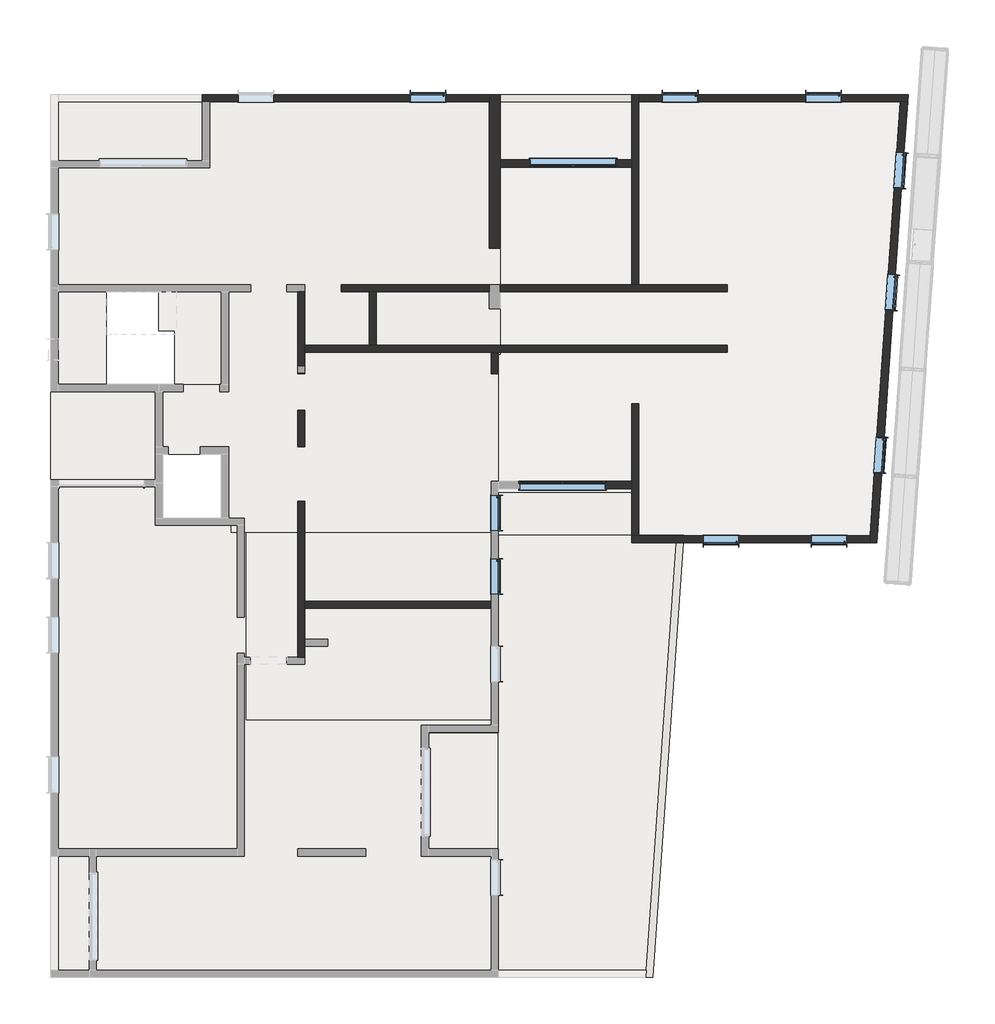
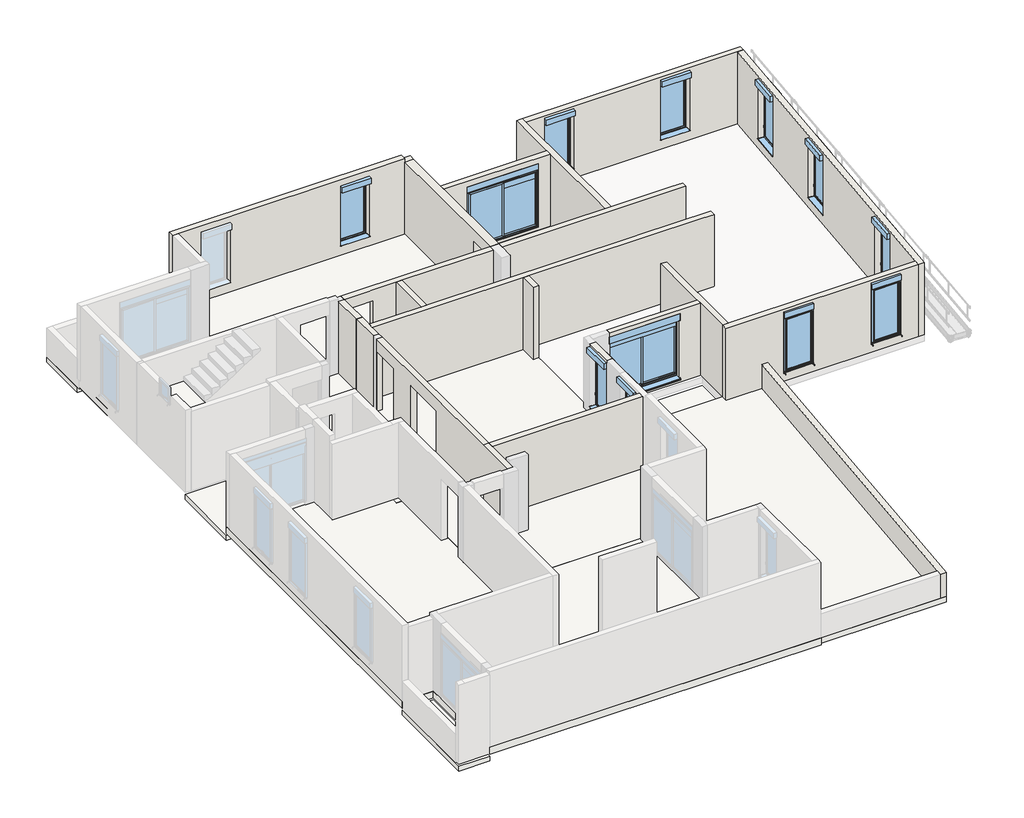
# One storey, part 2 of 3: 20 walls, 12 windows, 11 slabs.
"""IFC4 building model written with IfcOpenShell, lengths in millimetres."""

from ifc_helpers import new_model, si_unit, frame, origin, place, context, project, spatial, polyline, outline, extrude, faceted_brep, transform, mapped, element, save
from components import window_b85a0a24, window_200x100_8459d8a5, window_200x100_a15cc3b6

model = new_model("IFC4")

# Units and contexts
model_context = context("Model", 3, world=origin())
ifc_project = project(units=[si_unit("LENGTHUNIT", "METRE", prefix="MILLI")], contexts=[model_context])

# Site, building, storey
site = spatial("IfcSite", under=ifc_project)
building = spatial("IfcBuilding", under=site)
storey = spatial("IfcBuildingStorey", under=building, Name="03-Plateau 3", Elevation=4400.0)

# Slabs
placement = place(None, origin())
element("IfcSlab", 1, ObjectType="Plancher Coulé en place 25 cm", at=placement, inside=storey, context=model_context, shape_type="Brep", body=[
    faceted_brep([(6482.9552204, 18999.8622276, 3760.0), (6482.9552204, 16439.8622276, 3760.0), (6482.9552204, 15439.8622276, 3760.0), (6482.9552204, 11729.8622276, 3760.0), (6432.9552204, 11729.8622276, 3760.0), (6432.9552204, 6729.8622276, 3760.0), (6432.9552204, 6659.8622276, 3760.0), (6332.9552204, 6659.8622276, 3760.0), (6232.9552204, 6659.8622276, 3760.0), (6232.9552204, 6729.8622276, 3760.0), (-642.0447796, 6729.8622276, 3760.0), (-1072.0447796, 6729.8622276, 3760.0), (-1072.0447796, 6929.8622276, 3760.0), (-1072.0447796, 7129.8622276, 3760.0), (-1327.0447796, 7129.8622276, 3760.0), (-1327.0447796, 8929.8622276, 3760.0), (-2977.0447796, 8929.8622276, 3760.0), (-2977.0447796, 9129.8622276, 3760.0), (-2977.0447796, 10879.8622276, 3760.0), (-1377.0447796, 10879.8622276, 3760.0), (-1327.0447796, 10879.8622276, 3760.0), (-1327.0447796, 13479.8622276, 3760.0), (-6107.0447796, 13479.8622276, 3760.0), (-6107.0447796, 17149.8622276, 3760.0), (-5907.0447796, 17149.8622276, 3760.0), (-1857.0447796, 17149.8622276, 3760.0), (-1857.0447796, 18999.8622276, 3760.0), (-1757.0447796, 18999.8622276, 3760.0), (6482.9552204, 18999.8622276, 4010.0), (-1857.0447796, 18999.8622276, 4010.0), (-1857.0447796, 17149.8622276, 4010.0), (-2297.0447796, 17149.8622276, 4010.0), (-6107.0447796, 17149.8622276, 4010.0), (-6107.0447796, 13479.8622276, 4010.0), (-1327.0447796, 13479.8622276, 4010.0), (-1327.0447796, 10879.8622276, 4010.0), (-1377.0447796, 10879.8622276, 4010.0), (-2977.0447796, 10879.8622276, 4010.0), (-2977.0447796, 9129.8622276, 4010.0), (-2977.0447796, 8929.8622276, 4010.0), (-2817.0447796, 8929.8622276, 4010.0), (-1327.0447796, 8929.8622276, 4010.0), (-1327.0447796, 7129.8622276, 4010.0), (-1072.0447796, 7129.8622276, 4010.0), (-1072.0447796, 6729.8622276, 4010.0), (6232.9552204, 6729.8622276, 4010.0), (6232.9552204, 6659.8622276, 4010.0), (6432.9552204, 6659.8622276, 4010.0), (6432.9552204, 6729.8622276, 4010.0), (6432.9552204, 11729.8622276, 4010.0), (6482.9552204, 11729.8622276, 4010.0), (6482.9552204, 12999.8622276, 4010.0), (6482.9552204, 13679.8622276, 4010.0), (6482.9552204, 15439.8622276, 4010.0), (6482.9552204, 16439.8622276, 4010.0), (6232.9552204, 6659.8622276, 3810.0)], [[[0, 1, 2, 3, 4, 5, 6, 7, 8, 9, 10, 11, 12, 13, 14, 15, 16, 17, 18, 19, 20, 21, 22, 23, 24, 25, 26, 27]], [[28, 29, 30, 31, 32, 33, 34, 35, 36, 37, 38, 39, 40, 41, 42, 43, 44, 45, 46, 47, 48, 49, 50, 51, 52, 53, 54]], [[1, 0, 28, 54]], [[2, 1, 54, 53]], [[3, 2, 53, 52, 51, 50]], [[4, 3, 50, 49]], [[5, 4, 49, 48]], [[11, 10, 9, 45, 44]], [[15, 14, 42, 41]], [[16, 15, 41, 40, 39]], [[17, 16, 39, 38]], [[18, 17, 38, 37]], [[20, 19, 18, 37, 36, 35]], [[21, 20, 35, 34]], [[22, 21, 34, 33]], [[23, 22, 33, 32]], [[25, 24, 23, 32, 31, 30]], [[26, 25, 30, 29]], [[0, 27, 26, 29, 28]], [[13, 12, 11, 44, 43]], [[14, 13, 43, 42]], [[6, 5, 48, 47]], [[8, 7, 6, 47, 46, 55]], [[9, 8, 55, 46, 45]]]),
])
element("IfcSlab", 2, ObjectType="Plancher Coulé en place 25 cm", at=placement, inside=storey, context=model_context, shape_type="Brep", body=[
    faceted_brep([(-6107.0447796, -2340.1377724, 3760.0), (-6107.0447796, 8209.8622276, 3760.0), (-2977.0447796, 8209.8622276, 3760.0), (-2977.0447796, 7129.8622276, 3760.0), (-1072.0447796, 7129.8622276, 3760.0), (-1072.0447796, 6729.8622276, 3760.0), (-642.0447796, 6729.8622276, 3760.0), (-642.0447796, 5305.2622276, 3760.0), (-642.0447796, 3375.2622276, 3760.0), (-642.0447796, 1469.8622276, 3760.0), (4452.9552204, 1469.8622276, 3760.0), (6232.9552204, 1469.8622276, 3760.0), (6432.9552204, 1469.8622276, 3760.0), (6432.9552204, 1259.8622276, 3760.0), (6432.9552204, 1119.8622276, 3760.0), (4452.9552204, 1119.8622276, 3760.0), (4452.9552204, -2150.1377724, 3760.0), (6232.9552204, -2150.1377724, 3760.0), (6432.9552204, -2150.1377724, 3760.0), (6432.9552204, -5742.5306807, 3760.0), (-4937.0447796, -5742.5306807, 3760.0), (-5037.0447796, -5742.5306807, 3760.0), (-5037.0447796, -2340.1377724, 3760.0), (-6107.0447796, -2340.1377724, 4010.0), (-5037.0447796, -2340.1377724, 4010.0), (-5037.0447796, -2820.1377724, 4010.0), (-5037.0447796, -5240.1377724, 4010.0), (-5037.0447796, -5540.1377724, 4010.0), (-5037.0447796, -5742.5306807, 4010.0), (6432.9552204, -5742.5306807, 4010.0), (6432.9552204, -2440.1377724, 4010.0), (6432.9552204, -2150.1377724, 4010.0), (4452.9552204, -2150.1377724, 4010.0), (4452.9552204, 1119.8622276, 4010.0), (6432.9552204, 1119.8622276, 4010.0), (6432.9552204, 1469.8622276, 4010.0), (4452.9552204, 1469.8622276, 4010.0), (-642.0447796, 1469.8622276, 4010.0), (-642.0447796, 6729.8622276, 4010.0), (-1072.0447796, 6729.8622276, 4010.0), (-1072.0447796, 7129.8622276, 4010.0), (-2977.0447796, 7129.8622276, 4010.0), (-2977.0447796, 8209.8622276, 4010.0), (-3177.0447796, 8209.8622276, 4010.0), (-3487.0447796, 8209.8622276, 4010.0), (-5907.0447796, 8209.8622276, 4010.0), (-6107.0447796, 8209.8622276, 4010.0), (-6107.0447796, 8109.8622276, 4010.0), (6432.9552204, 1469.8622276, 3810.0)], [[[0, 1, 2, 3, 4, 5, 6, 7, 8, 9, 10, 11, 12, 13, 14, 15, 16, 17, 18, 19, 20, 21, 22]], [[23, 24, 25, 26, 27, 28, 29, 30, 31, 32, 33, 34, 35, 36, 37, 38, 39, 40, 41, 42, 43, 44, 45, 46, 47]], [[1, 0, 23, 47, 46]], [[2, 1, 46, 45, 44, 43, 42]], [[3, 2, 42, 41]], [[4, 3, 41, 40]], [[5, 4, 40, 39]], [[6, 5, 39, 38]], [[9, 8, 7, 6, 38, 37]], [[10, 9, 37, 36]], [[16, 15, 33, 32]], [[18, 17, 16, 32, 31]], [[19, 18, 31, 30, 29]], [[21, 20, 19, 29, 28]], [[22, 21, 28, 27, 26, 25, 24]], [[0, 22, 24, 23]], [[12, 11, 10, 36, 35, 48]], [[14, 13, 12, 48, 35, 34]], [[15, 14, 34, 33]]]),
])
element("IfcSlab", 3, ObjectType="Plancher Coulé en place 45 cm", at=placement, inside=storey, context=model_context, shape_type="Brep", body=[
    faceted_brep([(6232.9552204, 6559.8622276, 3560.0), (6232.9552204, 6329.8622276, 3560.0), (6232.9552204, 1819.8622276, 3560.0), (6232.9552204, 1469.8622276, 3560.0), (4767.8295439, 1469.8622276, 3560.0), (4452.9552204, 1469.8622276, 3560.0), (-642.0447796, 1469.8622276, 3560.0), (-642.0447796, 1819.8622276, 3560.0), (-642.0447796, 6329.8622276, 3560.0), (-642.0447796, 6729.8622276, 3560.0), (6232.9552204, 6729.8622276, 3560.0), (6232.9552204, 6559.8622276, 4010.0), (6232.9552204, 6729.8622276, 4010.0), (-642.0447796, 6729.8622276, 4010.0), (-642.0447796, 1469.8622276, 4010.0), (4452.9552204, 1469.8622276, 4010.0), (6232.9552204, 1469.8622276, 4010.0), (6232.9552204, 1469.8622276, 3810.0), (6232.9552204, 1469.8622276, 3760.0), (6232.9552204, 1469.8622276, 3690.0), (-642.0447796, 1469.8622276, 3760.0), (-642.0447796, 6729.8622276, 3760.0), (6232.9552204, 6729.8622276, 3760.0)], [[[0, 1, 2, 3, 4, 5, 6, 7, 8, 9, 10]], [[11, 12, 13, 14, 15, 16]], [[3, 2, 1, 0, 11, 16, 17, 18, 19]], [[6, 5, 15, 14, 20]], [[9, 8, 7, 6, 20, 14, 13, 21]], [[10, 9, 21, 13, 12, 22]], [[0, 10, 22, 12, 11]], [[5, 4, 3, 19, 18, 17, 16, 15]]]),
])
element("IfcSlab", 4, ObjectType="Plancher Coulé en place 18 cm", at=placement, inside=storey, context=model_context, shape_type="Brep", body=[
    faceted_brep([(-1857.0447796, 18999.8622276, 3510.0), (-1857.0447796, 18799.8622276, 3510.0), (-1857.0447796, 17149.8622276, 3510.0), (-6107.0447796, 17149.8622276, 3510.0), (-6107.0447796, 18559.8622276, 3510.0), (-6107.0447796, 18999.8622276, 3510.0), (-5907.0447796, 18999.8622276, 3510.0), (-1857.0447796, 18999.8622276, 3690.0), (-5907.0447796, 18999.8622276, 3690.0), (-6107.0447796, 18999.8622276, 3690.0), (-6107.0447796, 17149.8622276, 3690.0), (-1857.0447796, 17149.8622276, 3690.0)], [[[0, 1, 2, 3, 4, 5, 6]], [[7, 8, 9, 10, 11]], [[2, 1, 0, 7, 11]], [[3, 2, 11, 10]], [[5, 4, 3, 10, 9]], [[6, 5, 9, 8]], [[0, 6, 8, 7]]]),
])
element("IfcSlab", 5, ObjectType="Plancher Coulé en place 18 cm", at=placement, inside=storey, context=model_context, shape_type="SweptSolid", body=[
    extrude(outline(polyline([(-5907.0447796, -2340.1377724), (-5037.0447796, -2340.1377724), (-5037.0447796, -5740.1377724), (-6107.0447796, -5740.1377724), (-6107.0447796, -2340.1377724), (-5907.0447796, -2340.1377724)])), frame((0.0, 0.0, 3510.0), z_axis=(0.0, 0.0, 1.0), x_axis=(1.0, 0.0, 0.0)), (0.0, 0.0, 1.0), 180.0),
])
element("IfcSlab", 6, ObjectType="Plancher Coulé en place 18 cm", at=placement, inside=storey, context=model_context, shape_type="Brep", body=[
    faceted_brep([(4767.8295439, 1469.8622276, 3510.0), (6232.9552204, 1469.8622276, 3510.0), (6432.9552204, 1469.8622276, 3510.0), (6432.9552204, 1259.8622276, 3510.0), (6432.9552204, -2150.1377724, 3510.0), (4452.9552204, -2150.1377724, 3510.0), (4452.9552204, 1119.8622276, 3510.0), (4452.9552204, 1469.8622276, 3510.0), (4767.8295439, 1469.8622276, 3690.0), (4452.9552204, 1469.8622276, 3690.0), (4452.9552204, 1119.8622276, 3690.0), (4452.9552204, -2150.1377724, 3690.0), (6432.9552204, -2150.1377724, 3690.0), (6432.9552204, 1119.8622276, 3690.0), (6432.9552204, 1259.8622276, 3690.0), (6432.9552204, 1469.8622276, 3690.0), (6232.9552204, 1469.8622276, 3690.0), (4452.9552204, 1469.8622276, 3560.0)], [[[0, 1, 2, 3, 4, 5, 6, 7]], [[8, 9, 10, 11, 12, 13, 14, 15, 16]], [[4, 3, 2, 15, 14, 13, 12]], [[5, 4, 12, 11]], [[7, 6, 5, 11, 10, 9, 17]], [[0, 7, 17, 9, 8]], [[2, 1, 0, 8, 16, 15]]]),
])
element("IfcSlab", 7, ObjectType="Plancher Coulé en place 18 cm", at=placement, inside=storey, context=model_context, shape_type="Brep", body=[
    faceted_brep([(-2977.0447796, 10679.8622276, 3510.0), (-2977.0447796, 9129.8622276, 3510.0), (-2977.0447796, 8929.8622276, 3510.0), (-2977.0447796, 8209.8622276, 3510.0), (-6107.0447796, 8209.8622276, 3510.0), (-6107.0447796, 10679.8622276, 3510.0), (-5907.0447796, 10679.8622276, 3510.0), (-2977.0447796, 10679.8622276, 3690.0), (-5907.0447796, 10679.8622276, 3690.0), (-6107.0447796, 10679.8622276, 3690.0), (-6107.0447796, 8209.8622276, 3690.0), (-5907.0447796, 8209.8622276, 3690.0), (-2977.0447796, 8209.8622276, 3690.0)], [[[0, 1, 2, 3, 4, 5, 6]], [[7, 8, 9, 10, 11, 12]], [[3, 2, 1, 0, 7, 12]], [[4, 3, 12, 11, 10]], [[5, 4, 10, 9]], [[6, 5, 9, 8]], [[0, 6, 8, 7]]]),
])
element("IfcSlab", 8, ObjectType="Plancher Coulé en place 20 cm", at=placement, inside=storey, context=model_context, shape_type="Brep", body=[
    faceted_brep([(10766.9267033, -5740.1377724, 3810.0), (6432.9552204, -5740.1377724, 3810.0), (6432.9552204, 1469.8622276, 3810.0), (6232.9552204, 1469.8622276, 3810.0), (6232.9552204, 2069.8622276, 3810.0), (6232.9552204, 4489.8622276, 3810.0), (6232.9552204, 5039.8622276, 3810.0), (6232.9552204, 6329.8622276, 3810.0), (6232.9552204, 6559.8622276, 3810.0), (6232.9552204, 6659.8622276, 3810.0), (6332.9552204, 6659.8622276, 3810.0), (11434.634224, 6659.8622276, 3810.0), (11634.0191714, 6659.8622276, 3810.0), (11626.5387054, 6552.8865803, 3810.0), (10766.9267033, -5740.1377724, 4010.0), (11634.0191714, 6659.8622276, 4010.0), (6232.9552204, 6659.8622276, 4010.0), (6232.9552204, 1469.8622276, 4010.0), (6432.9552204, 1469.8622276, 4010.0), (6432.9552204, -5740.1377724, 4010.0)], [[[0, 1, 2, 3, 4, 5, 6, 7, 8, 9, 10, 11, 12, 13]], [[14, 15, 16, 17, 18, 19]], [[1, 0, 14, 19]], [[2, 1, 19, 18]], [[3, 2, 18, 17]], [[9, 8, 7, 6, 5, 4, 3, 17, 16]], [[12, 11, 10, 9, 16, 15]], [[0, 13, 12, 15, 14]]]),
])
element("IfcSlab", 9, ObjectType="Plancher Coulé en place 18 cm", at=placement, inside=storey, context=model_context, shape_type="SweptSolid", body=[
    extrude(outline(polyline([(10172.9552204, 7859.8622276), (10172.9552204, 6659.8622276), (6432.9552204, 6659.8622276), (6432.9552204, 7859.8622276), (6632.9552204, 7859.8622276), (10172.9552204, 7859.8622276)])), frame((0.0, 0.0, 3510.0), z_axis=(0.0, 0.0, 1.0), x_axis=(1.0, 0.0, 0.0)), (0.0, 0.0, 1.0), 180.0),
])
element("IfcSlab", 10, ObjectType="Plancher Coulé en place 20 cm", at=placement, inside=storey, context=model_context, shape_type="SweptSolid", body=[
    extrude(outline(polyline([(-1327.0447796, 10879.8622276), (-2628.7510491, 10879.8622276), (-2628.7510491, 12379.8622276), (-3088.7510491, 12379.8622276), (-3088.7510491, 13479.8622276), (-2628.7510491, 13479.8622276), (-1327.0447796, 13479.8622276), (-1327.0447796, 10879.8622276)])), frame((0.0, 0.0, 3950.0), z_axis=(0.0, 0.0, 1.0), x_axis=(1.0, 0.0, 0.0)), (0.0, 0.0, 1.0), 200.0),
])
element("IfcSlab", 11, ObjectType="Plancher Coulé en place 18 cm", at=placement, inside=storey, context=model_context, shape_type="SweptSolid", body=[
    extrude(outline(polyline([(-5907.0447796, 10879.8622276), (-5907.0447796, 13479.8622276), (-4550.4151884, 13479.8622276), (-4550.4151884, 10879.8622276), (-5907.0447796, 10879.8622276)])), frame((0.0, 0.0, 5420.0), z_axis=(0.0, 0.0, 1.0), x_axis=(1.0, 0.0, 0.0)), (0.0, 0.0, 1.0), 180.0),
])

# Walls
element("IfcWall", 12, ObjectType="Voile Banché 30 cm", at=placement, inside=storey, context=model_context, shape_type="Brep", body=[
    faceted_brep([(6182.9552204, 13680.5057943, 6650.0), (6182.9552204, 17174.8622276, 6650.0), (6182.9552204, 18799.8622276, 6650.0), (6182.9552204, 18999.8622276, 6650.0), (6182.9552204, 18999.8622276, 4010.0), (6182.9552204, 18799.8622276, 4010.0), (6182.9552204, 14700.5057943, 4010.0), (6182.9552204, 14700.5057943, 6250.0), (6182.9552204, 13680.5057943, 6250.0), (6482.9552204, 18999.8622276, 4010.0), (6482.9552204, 18999.8622276, 4750.0), (6482.9552204, 18999.8622276, 6590.0), (6482.9552204, 18999.8622276, 6650.0), (6482.9552204, 18799.8622276, 6650.0), (6482.9552204, 17174.8622276, 6650.0), (6482.9552204, 16974.8622276, 6650.0), (6482.9552204, 13680.5057943, 6650.0), (6482.9552204, 13680.5057943, 6250.0), (6482.9552204, 14700.5057943, 6250.0), (6482.9552204, 14700.5057943, 4010.0), (6482.9552204, 16974.8622276, 4010.0), (6482.9552204, 17174.8622276, 4010.0)], [[[0, 1, 2, 3, 4, 5, 6, 7, 8]], [[9, 10, 11, 12, 13, 14, 15, 16, 17, 18, 19, 20, 21]], [[4, 9, 21, 20, 19, 6, 5]], [[16, 0, 8, 17]], [[3, 12, 11, 10, 9, 4]], [[7, 18, 17, 8]], [[18, 7, 6, 19]], [[3, 2, 13, 12]], [[2, 1, 0, 16, 15, 14, 13]]]),
])
element("IfcWall", 13, ObjectType="Voile Banché 20 cm", at=placement, inside=storey, context=model_context, shape_type="Brep", body=[
    faceted_brep([(6482.9552204, 16974.8622276, 4010.0), (10172.9552204, 16974.8622276, 4010.0), (10172.9552204, 16974.8622276, 6650.0), (6482.9552204, 16974.8622276, 6650.0), (9762.9552204, 16974.8622276, 6450.0), (9762.9552204, 16974.8622276, 6230.0), (9762.9552204, 16974.8622276, 4150.0), (9762.9552204, 16974.8622276, 4120.0), (7302.9552204, 16974.8622276, 4120.0), (7302.9552204, 16974.8622276, 4150.0), (7302.9552204, 16974.8622276, 6230.0), (7302.9552204, 16974.8622276, 6450.0), (10172.9552204, 17174.8622276, 4010.0), (6482.9552204, 17174.8622276, 4010.0), (6482.9552204, 17174.8622276, 6650.0), (10172.9552204, 17174.8622276, 6650.0), (9762.9552204, 17174.8622276, 6200.0), (9762.9552204, 17174.8622276, 6450.0), (7302.9552204, 17174.8622276, 6450.0), (7302.9552204, 17174.8622276, 6200.0), (7332.9552204, 17174.8622276, 6200.0), (7332.9552204, 17174.8622276, 4105.0695702), (7302.9552204, 17174.8622276, 4105.0695702), (7302.9552204, 17174.8622276, 4050.0), (9762.9552204, 17174.8622276, 4050.0), (9762.9552204, 17174.8622276, 4105.0695702), (9732.9552204, 17174.8622276, 4105.0695702), (9732.9552204, 17174.8622276, 6200.0), (9742.9552204, 17024.8622276, 6210.0), (9742.9552204, 17024.8622276, 4150.0), (9762.9552204, 17024.8622276, 4150.0), (9762.9552204, 17024.8622276, 6210.0), (7322.9552204, 17024.8622276, 4150.0), (7322.9552204, 17024.8622276, 6210.0), (7302.9552204, 17024.8622276, 6210.0), (7302.9552204, 17024.8622276, 4150.0), (9762.9552204, 17034.8622276, 4150.0), (9762.9552204, 17034.8622276, 4119.2643667), (9762.9552204, 17044.8622276, 4050.0), (9762.9552204, 17034.8622276, 6200.0), (9762.9552204, 17034.8622276, 6210.0), (7302.9552204, 17034.8622276, 6210.0), (7302.9552204, 17034.8622276, 6200.0), (7302.9552204, 17044.8622276, 4050.0), (7302.9552204, 17034.8622276, 4119.2643667), (7302.9552204, 17034.8622276, 4150.0), (9732.9552204, 17034.8622276, 4050.0), (7332.9552204, 17034.8622276, 4050.0), (7332.9552204, 17034.8622276, 4060.0), (9732.9552204, 17034.8622276, 4060.0), (7332.9552204, 17044.8622276, 4050.0), (7332.9552204, 17034.8622276, 6200.0), (7332.9552204, 17034.8622276, 4119.2643667), (9732.9552204, 17044.8622276, 4050.0), (9732.9552204, 17034.8622276, 4119.2643667), (9732.9552204, 17034.8622276, 6200.0), (9742.9552204, 17034.8622276, 4150.0), (9742.9552204, 17034.8622276, 6200.0), (7322.9552204, 17034.8622276, 6200.0), (7322.9552204, 17034.8622276, 4150.0), (7322.9552204, 17034.8622276, 6210.0), (9742.9552204, 17034.8622276, 6210.0)], [[[0, 1, 2, 3], [4, 5, 6, 7, 8, 9, 10, 11]], [[12, 13, 14, 15], [16, 17, 18, 19, 20, 21, 22, 23, 24, 25, 26, 27]], [[1, 0, 13, 12]], [[2, 1, 12, 15]], [[0, 3, 14, 13]], [[3, 2, 15, 14]], [[28, 29, 30, 31]], [[32, 33, 34, 35]], [[31, 30, 36, 37, 25, 24, 38, 7, 6, 5, 4, 17, 16, 39, 40]], [[35, 34, 41, 42, 19, 18, 11, 10, 9, 8, 43, 23, 22, 44, 45]], [[46, 47, 48, 49]], [[48, 47, 50]], [[20, 51, 52, 21]], [[47, 46, 53, 38, 24, 23, 43, 50]], [[46, 49, 53]], [[54, 55, 27, 26]], [[37, 36, 56, 57, 55, 54]], [[45, 44, 52, 51, 58, 59]], [[33, 32, 59, 58, 60]], [[29, 28, 61, 57, 56]], [[7, 38, 53, 49, 48, 50, 43, 8]], [[37, 54, 26, 25]], [[52, 44, 22, 21]], [[32, 35, 45, 59]], [[30, 29, 56, 36]], [[17, 4, 11, 18]], [[34, 33, 60, 41]], [[28, 31, 40, 61]], [[40, 39, 57, 61]], [[42, 41, 60, 58]], [[19, 42, 58, 51, 20]], [[39, 16, 27, 55, 57]]]),
])
element("IfcWall", 14, ObjectType="Voile Banché 20 cm", at=placement, inside=storey, context=model_context, shape_type="Brep", body=[
    faceted_brep([(10372.9552204, 18799.8622276, 4010.0), (17705.3277835, 18799.8622276, 4010.0), (17905.8161631, 18799.8622276, 4010.0), (17905.8161631, 18799.8622276, 6650.0), (17705.3277835, 18799.8622276, 6650.0), (10372.9552204, 18799.8622276, 6650.0), (16049.3137407, 18799.8622276, 6550.0), (16049.3137407, 18799.8622276, 4350.0), (15049.3137407, 18799.8622276, 4350.0), (15049.3137407, 18799.8622276, 6550.0), (12032.9552204, 18799.8622276, 6550.0), (12032.9552204, 18799.8622276, 4350.0), (11032.9552204, 18799.8622276, 4350.0), (11032.9552204, 18799.8622276, 6550.0), (17919.8015255, 18999.8622276, 4010.0), (10372.9552204, 18999.8622276, 4010.0), (10372.9552204, 18999.8622276, 6650.0), (17919.8015255, 18999.8622276, 6650.0), (16049.3137407, 18999.8622276, 4350.0), (16049.3137407, 18999.8622276, 6550.0), (15049.3137407, 18999.8622276, 6550.0), (15049.3137407, 18999.8622276, 4350.0), (12032.9552204, 18999.8622276, 4350.0), (12032.9552204, 18999.8622276, 6550.0), (11032.9552204, 18999.8622276, 6550.0), (11032.9552204, 18999.8622276, 4350.0)], [[[0, 1, 2, 3, 4, 5], [6, 7, 8, 9], [10, 11, 12, 13]], [[14, 15, 16, 17], [18, 19, 20, 21], [22, 23, 24, 25]], [[2, 1, 0, 15, 14]], [[0, 5, 16, 15]], [[3, 2, 14, 17]], [[5, 4, 3, 17, 16]], [[18, 7, 6, 19]], [[19, 6, 9, 20]], [[20, 9, 8, 21]], [[7, 18, 21, 8]], [[22, 11, 10, 23]], [[23, 10, 13, 24]], [[24, 13, 12, 25]], [[11, 22, 25, 12]]]),
])
element("IfcWall", 15, ObjectType="Voile Banché 20 cm", at=placement, inside=storey, context=model_context, shape_type="Brep", body=[
    faceted_brep([(17705.3277835, 18799.8622276, 4010.0), (16855.2742838, 6643.530828, 4010.0), (16841.2889214, 6443.530828, 4010.0), (16841.2889214, 6443.530828, 6650.0), (16855.2742838, 6643.530828, 6650.0), (17705.3277835, 18799.8622276, 6650.0), (17367.3209583, 13966.1394281, 4350.0), (17367.3209583, 13966.1394281, 6550.0), (17297.5644846, 12968.5753778, 6550.0), (17297.5644846, 12968.5753778, 4350.0), (17048.5338733, 9407.2717184, 4350.0), (17048.5338733, 9407.2717184, 6550.0), (16978.7773996, 8409.7076681, 6550.0), (16978.7773996, 8409.7076681, 4350.0), (17606.5856633, 17387.7841205, 4350.0), (17606.5856633, 17387.7841205, 6550.0), (17536.8291895, 16390.2200702, 6550.0), (17536.8291895, 16390.2200702, 4350.0), (17041.777301, 6443.530828, 4010.0), (17905.8161631, 18799.8622276, 4010.0), (17905.8161631, 18799.8622276, 6650.0), (17041.777301, 6443.530828, 6650.0), (17566.8337684, 13952.1881333, 6550.0), (17566.8337684, 13952.1881333, 4350.0), (17497.0772946, 12954.6240831, 4350.0), (17497.0772946, 12954.6240831, 6550.0), (17248.0466834, 9393.3204236, 6550.0), (17248.0466834, 9393.3204236, 4350.0), (17178.2902096, 8395.7563734, 4350.0), (17178.2902096, 8395.7563734, 6550.0), (17806.0984733, 17373.8328257, 6550.0), (17806.0984733, 17373.8328257, 4350.0), (17736.3419996, 16376.2687754, 4350.0), (17736.3419996, 16376.2687754, 6550.0)], [[[0, 1, 2, 3, 4, 5], [6, 7, 8, 9], [10, 11, 12, 13], [14, 15, 16, 17]], [[18, 19, 20, 21], [22, 23, 24, 25], [26, 27, 28, 29], [30, 31, 32, 33]], [[2, 1, 0, 19, 18]], [[3, 2, 18, 21]], [[0, 5, 20, 19]], [[5, 4, 3, 21, 20]], [[6, 23, 22, 7]], [[7, 22, 25, 8]], [[8, 25, 24, 9]], [[23, 6, 9, 24]], [[10, 27, 26, 11]], [[12, 29, 28, 13]], [[27, 10, 13, 28]], [[14, 31, 30, 15]], [[32, 17, 16, 33]], [[31, 14, 17, 32]], [[29, 12, 11, 26]], [[33, 16, 15, 30]]]),
])
element("IfcWall", 16, ObjectType="Voile Banché 20 cm", at=placement, inside=storey, context=model_context, shape_type="Brep", body=[
    faceted_brep([(16855.2742838, 6643.530828, 4010.0), (10373.5257924, 6643.530828, 4010.0), (10173.5257924, 6643.530828, 4010.0), (10173.5257924, 6643.530828, 6650.0), (10373.5257924, 6643.530828, 6650.0), (16855.2742838, 6643.530828, 6650.0), (16203.5257924, 6643.530828, 4350.0), (16203.5257924, 6643.530828, 6550.0), (15203.5257924, 6643.530828, 6550.0), (15203.5257924, 6643.530828, 4350.0), (13174.0290951, 6643.530828, 4350.0), (13174.0290951, 6643.530828, 6550.0), (12174.0290951, 6643.530828, 6550.0), (12174.0290951, 6643.530828, 4350.0), (10173.5257924, 6443.530828, 4010.0), (11418.4034267, 6443.530828, 4010.0), (11618.8918063, 6443.530828, 4010.0), (16841.2889214, 6443.530828, 4010.0), (16841.2889214, 6443.530828, 6650.0), (10173.5257924, 6443.530828, 6650.0), (16203.5257924, 6443.530828, 6550.0), (16203.5257924, 6443.530828, 4350.0), (15203.5257924, 6443.530828, 4350.0), (15203.5257924, 6443.530828, 6550.0), (13174.0290951, 6443.530828, 6550.0), (13174.0290951, 6443.530828, 4350.0), (12174.0290951, 6443.530828, 4350.0), (12174.0290951, 6443.530828, 6550.0)], [[[0, 1, 2, 3, 4, 5], [6, 7, 8, 9], [10, 11, 12, 13]], [[14, 15, 16, 17, 18, 19], [20, 21, 22, 23], [24, 25, 26, 27]], [[2, 1, 0, 17, 16, 15, 14]], [[0, 5, 18, 17]], [[3, 2, 14, 19]], [[5, 4, 3, 19, 18]], [[6, 21, 20, 7]], [[7, 20, 23, 8]], [[8, 23, 22, 9]], [[21, 6, 9, 22]], [[10, 25, 24, 11]], [[12, 27, 26, 13]], [[25, 10, 13, 26]], [[27, 12, 11, 24]]]),
])
element("IfcWall", 17, ObjectType="Voile Banché 20 cm", at=placement, inside=storey, context=model_context, shape_type="Brep", body=[
    faceted_brep([(1012.9552204, 11199.8622276, 4010.0), (1012.9552204, 11199.8622276, 6650.0), (1012.9552204, 4799.8622276, 6650.0), (1012.9552204, 4599.8622276, 6650.0), (1012.9552204, 3239.8622276, 6650.0), (1012.9552204, 3239.8622276, 4010.0), (1012.9552204, 3539.8622276, 4010.0), (1012.9552204, 3739.8622276, 4010.0), (1012.9552204, 4599.8622276, 4010.0), (1012.9552204, 4799.8622276, 4010.0), (1012.9552204, 7609.8622276, 4010.0), (1012.9552204, 7609.8622276, 6200.0), (1012.9552204, 9129.8622276, 6200.0), (1012.9552204, 9129.8622276, 4010.0), (1012.9552204, 10159.8622276, 4010.0), (1012.9552204, 10159.8622276, 6200.0), (1012.9552204, 11179.8622276, 6200.0), (1012.9552204, 11179.8622276, 4010.0), (1012.9552204, 4799.8622276, 4950.0), (1012.9552204, 5399.8622276, 4950.0), (1012.9552204, 5399.8622276, 4350.0), (1012.9552204, 4799.8622276, 4350.0), (812.9552204, 11199.8622276, 6650.0), (812.9552204, 11199.8622276, 4010.0), (812.9552204, 11179.8622276, 4010.0), (812.9552204, 11179.8622276, 6200.0), (812.9552204, 10159.8622276, 6200.0), (812.9552204, 10159.8622276, 4010.0), (812.9552204, 9129.8622276, 4010.0), (812.9552204, 9129.8622276, 6200.0), (812.9552204, 7609.8622276, 6200.0), (812.9552204, 7609.8622276, 4010.0), (812.9552204, 3239.8622276, 4010.0), (812.9552204, 3239.8622276, 6650.0), (812.9552204, 4799.8622276, 6650.0), (812.9552204, 5399.8622276, 4950.0), (812.9552204, 4799.8622276, 4950.0), (812.9552204, 4799.8622276, 4350.0), (812.9552204, 5399.8622276, 4350.0)], [[[0, 1, 2, 3, 4, 5, 6, 7, 8, 9, 10, 11, 12, 13, 14, 15, 16, 17], [18, 19, 20, 21]], [[22, 23, 24, 25, 26, 27, 28, 29, 30, 31, 32, 33, 34], [35, 36, 37, 38]], [[5, 32, 31, 10, 9, 8, 7, 6]], [[23, 0, 17, 24]], [[27, 14, 13, 28]], [[1, 0, 23, 22]], [[5, 4, 33, 32]], [[15, 26, 25, 16]], [[26, 15, 14, 27]], [[16, 25, 24, 17]], [[11, 30, 29, 12]], [[30, 11, 10, 31]], [[12, 29, 28, 13]], [[18, 36, 35, 19]], [[20, 38, 37, 21]], [[19, 35, 38, 20]], [[36, 18, 21, 37]], [[4, 3, 2, 34, 33]], [[2, 1, 22, 34]]]),
])
element("IfcWall", 18, ObjectType="Voile Banché 20 cm", at=placement, inside=storey, context=model_context, shape_type="Brep", body=[
    faceted_brep([(1012.9552204, 4599.8622276, 4010.0), (6232.9552204, 4599.8622276, 4010.0), (6232.9552204, 4599.8622276, 6650.0), (1012.9552204, 4599.8622276, 6650.0), (1012.9552204, 4799.8622276, 4010.0), (1012.9552204, 4799.8622276, 4350.0), (1012.9552204, 4799.8622276, 4950.0), (1012.9552204, 4799.8622276, 6650.0), (6232.9552204, 4799.8622276, 6650.0), (6232.9552204, 4799.8622276, 4010.0)], [[[0, 1, 2, 3]], [[4, 5, 6, 7, 8, 9]], [[1, 0, 4, 9]], [[3, 2, 8, 7]], [[0, 3, 7, 6, 5, 4]], [[2, 1, 9, 8]]]),
])
element("IfcWall", 19, ObjectType="Voile Banché 20 cm", at=placement, inside=storey, context=model_context, shape_type="Brep", body=[
    faceted_brep([(1012.9552204, 11399.8622276, 4010.0), (1012.9552204, 11779.8622276, 4010.0), (1012.9552204, 11979.8622276, 4010.0), (1012.9552204, 13479.2468302, 4010.0), (1012.9552204, 13479.2468302, 6650.0), (1012.9552204, 11979.8622276, 6650.0), (1012.9552204, 11779.8622276, 6650.0), (1012.9552204, 11399.8622276, 6650.0), (812.9552204, 11399.8622276, 4010.0), (812.9552204, 11399.8622276, 6650.0), (812.9552204, 13479.2468302, 6650.0), (812.9552204, 13479.2468302, 4010.0)], [[[0, 1, 2, 3, 4, 5, 6, 7]], [[8, 9, 10, 11]], [[3, 2, 1, 0, 8, 11]], [[4, 3, 11, 10]], [[0, 7, 9, 8]], [[7, 6, 5, 4, 10, 9]]]),
])
element("IfcWall", 20, ObjectType="Voile Banché 20 cm", at=placement, inside=storey, context=model_context, shape_type="Brep", body=[
    faceted_brep([(1012.9552204, 11779.8622276, 4010.0), (6232.9552204, 11779.8622276, 4010.0), (6432.9552204, 11779.8622276, 4010.0), (12853.5257924, 11779.8622276, 4010.0), (12853.5257924, 11779.8622276, 6650.0), (12453.5257924, 11779.8622276, 6650.0), (6482.9552204, 11779.8622276, 6650.0), (6432.9552204, 11779.8622276, 6650.0), (6232.9552204, 11779.8622276, 6650.0), (6182.9552204, 11779.8622276, 6650.0), (1012.9552204, 11779.8622276, 6650.0), (1012.9552204, 11979.8622276, 4010.0), (1012.9552204, 11979.8622276, 6650.0), (2812.9552204, 11979.8622276, 6650.0), (3012.9552204, 11979.8622276, 6650.0), (10173.5257924, 11979.8622276, 6650.0), (10373.5257924, 11979.8622276, 6650.0), (12853.5257924, 11979.8622276, 6650.0), (12853.5257924, 11979.8622276, 4010.0), (3012.9552204, 11979.8622276, 4010.0), (2812.9552204, 11979.8622276, 4010.0)], [[[0, 1, 2, 3, 4, 5, 6, 7, 8, 9, 10]], [[11, 12, 13, 14, 15, 16, 17, 18, 19, 20]], [[3, 2, 1, 0, 11, 20, 19, 18]], [[4, 3, 18, 17]], [[0, 10, 12, 11]], [[10, 9, 8, 7, 6, 5, 4, 17, 16, 15, 14, 13, 12]]]),
])
element("IfcWall", 21, ObjectType="Voile Banché 20 cm", at=placement, inside=storey, context=model_context, shape_type="SweptSolid", body=[
    extrude(outline(polyline([(3012.9552204, 13479.8622276), (3012.9552204, 11979.8622276), (2812.9552204, 11979.8622276), (2812.9552204, 13479.8622276), (3012.9552204, 13479.8622276)])), frame((0.0, 0.0, 4010.0), z_axis=(0.0, 0.0, 1.0), x_axis=(1.0, 0.0, 0.0)), (0.0, 0.0, 1.0), 2640.0),
])
element("IfcWall", 22, ObjectType="Voile Banché 20 cm", at=placement, inside=storey, context=model_context, shape_type="Brep", body=[
    faceted_brep([(6232.9552204, 11779.8622276, 4010.0), (6232.9552204, 11179.8622276, 4010.0), (6232.9552204, 11179.8622276, 6550.0), (6232.9552204, 11179.8622276, 6650.0), (6232.9552204, 11779.8622276, 6650.0), (6432.9552204, 11779.8622276, 4010.0), (6432.9552204, 11779.8622276, 6650.0), (6432.9552204, 11179.8622276, 6650.0), (6432.9552204, 11179.8622276, 6550.0), (6432.9552204, 11179.8622276, 4010.0)], [[[0, 1, 2, 3, 4]], [[5, 6, 7, 8, 9]], [[1, 0, 5, 9]], [[3, 2, 1, 9, 8, 7]], [[0, 4, 6, 5]], [[4, 3, 7, 6]]]),
])
element("IfcWall", 23, ObjectType="Voile Banché 20 cm", at=placement, inside=storey, context=model_context, shape_type="SweptSolid", body=[
    extrude(outline(polyline([(6432.9552204, 7779.8622276), (6432.9552204, 6779.8622276), (6232.9552204, 6779.8622276), (6232.9552204, 7779.8622276), (6432.9552204, 7779.8622276)])), frame((0.0, 0.0, 4080.0), z_axis=(0.0, 0.0, 1.0), x_axis=(1.0, 0.0, 0.0)), (0.0, 0.0, 1.0), 270.0),
    extrude(outline(polyline([(6432.9552204, 7779.8622276), (6432.9552204, 6779.8622276), (6232.9552204, 6779.8622276), (6232.9552204, 7779.8622276), (6432.9552204, 7779.8622276)])), frame((0.0, 0.0, 6550.0), z_axis=(0.0, 0.0, 1.0), x_axis=(1.0, 0.0, 0.0)), (0.0, 0.0, 1.0), 100.0),
])
element("IfcWall", 24, ObjectType="Acrotère BA 20 cm", at=placement, inside=storey, context=model_context, shape_type="Brep", body=[
    faceted_brep([(6482.9552204, 18799.8622276, 4750.0), (6482.9552204, 18799.8622276, 3760.0), (6482.9552204, 18799.8622276, 3690.0), (10172.9552204, 18799.8622276, 3690.0), (10172.9552204, 18799.8622276, 3780.0), (10172.9552204, 18799.8622276, 4750.0), (6482.9552204, 18999.8622276, 3690.0), (6482.9552204, 18999.8622276, 3760.0), (6482.9552204, 18999.8622276, 4010.0), (6482.9552204, 18999.8622276, 4750.0), (10172.9552204, 18999.8622276, 4750.0), (10172.9552204, 18999.8622276, 3780.0), (10172.9552204, 18999.8622276, 3690.0)], [[[0, 1, 2, 3, 4, 5]], [[6, 7, 8, 9, 10, 11, 12]], [[3, 2, 6, 12]], [[0, 5, 10, 9]], [[0, 9, 8, 7, 6, 2, 1]], [[5, 4, 3, 12, 11, 10]]]),
])
element("IfcWall", 25, ObjectType="Acrotère BA 20 cm", at=placement, inside=storey, context=model_context, shape_type="Brep", body=[
    faceted_brep([(10766.9267033, -5740.1377724, 4010.0), (11618.8918063, 6443.530828, 4010.0), (11618.8918063, 6443.530828, 4890.0), (10766.9267033, -5740.1377724, 4890.0), (10566.4383237, -5740.1377724, 4010.0), (10566.4383237, -5740.1377724, 4890.0), (10580.423686, -5540.1377724, 4890.0), (11418.4034267, 6443.530828, 4890.0), (11418.4034267, 6443.530828, 4010.0), (10580.423686, -5540.1377724, 4010.0)], [[[0, 1, 2, 3]], [[4, 5, 6, 7, 8, 9]], [[1, 0, 4, 9, 8]], [[3, 2, 7, 6, 5]], [[2, 1, 8, 7]], [[0, 3, 5, 4]]]),
])
element("IfcWall", 26, ObjectType="Poutre voile 20cm", at=placement, inside=storey, context=model_context, shape_type="Brep", body=[
    faceted_brep([(10172.9552204, 18799.8622276, 3780.0), (10172.9552204, 18799.8622276, 3510.0), (10172.9552204, 18799.8622276, 3490.0), (10172.9552204, 13679.8622276, 3490.0), (10172.9552204, 13679.8622276, 6650.0), (10172.9552204, 16974.8622276, 6650.0), (10172.9552204, 17174.8622276, 6650.0), (10172.9552204, 18999.8622276, 6650.0), (10172.9552204, 18999.8622276, 6590.0), (10172.9552204, 18999.8622276, 4750.0), (10172.9552204, 18999.8622276, 3780.0), (10372.9552204, 18799.8622276, 3490.0), (10372.9552204, 18799.8622276, 3780.0), (10372.9552204, 18999.8622276, 3780.0), (10372.9552204, 18999.8622276, 4010.0), (10372.9552204, 18999.8622276, 6650.0), (10372.9552204, 18799.8622276, 6650.0), (10372.9552204, 13679.8622276, 6650.0), (10372.9552204, 13679.8622276, 3490.0), (10272.9552204, 18999.8622276, 6650.0)], [[[0, 1, 2, 3, 4, 5, 6, 7, 8, 9, 10]], [[11, 12, 13, 14, 15, 16, 17, 18]], [[3, 2, 11, 18]], [[7, 6, 5, 4, 17, 16, 15, 19]], [[10, 13, 12, 0]], [[0, 12, 11, 2, 1]], [[10, 9, 8, 7, 19, 15, 14, 13]], [[3, 18, 17, 4]]]),
])
element("IfcWall", 27, ObjectType="Poutre voile 20cm", at=placement, inside=storey, context=model_context, shape_type="Brep", body=[
    faceted_brep([(-1857.0447796, 18799.8622276, 4010.0), (-1657.0447796, 18799.8622276, 4010.0), (6182.9552204, 18799.8622276, 4010.0), (6182.9552204, 18799.8622276, 6650.0), (6182.9552204, 18799.8622276, 6770.0), (-1657.0447796, 18799.8622276, 6770.0), (-1857.0447796, 18799.8622276, 6770.0), (-1857.0447796, 18799.8622276, 6590.0), (-1857.0447796, 18799.8622276, 4750.0), (142.9552204, 18799.8622276, 6550.0), (142.9552204, 18799.8622276, 4350.0), (-857.0447796, 18799.8622276, 4350.0), (-857.0447796, 18799.8622276, 6550.0), (4962.9552204, 18799.8622276, 6550.0), (4962.9552204, 18799.8622276, 4350.0), (3962.9552204, 18799.8622276, 4350.0), (3962.9552204, 18799.8622276, 6550.0), (6182.9552204, 18999.8622276, 4010.0), (-1857.0447796, 18999.8622276, 4010.0), (-1857.0447796, 18999.8622276, 4750.0), (-1857.0447796, 18999.8622276, 6590.0), (-1857.0447796, 18999.8622276, 6770.0), (6182.9552204, 18999.8622276, 6770.0), (6182.9552204, 18999.8622276, 6650.0), (142.9552204, 18999.8622276, 4350.0), (142.9552204, 18999.8622276, 6550.0), (-857.0447796, 18999.8622276, 6550.0), (-857.0447796, 18999.8622276, 4350.0), (4962.9552204, 18999.8622276, 4350.0), (4962.9552204, 18999.8622276, 6550.0), (3962.9552204, 18999.8622276, 6550.0), (3962.9552204, 18999.8622276, 4350.0)], [[[0, 1, 2, 3, 4, 5, 6, 7, 8], [9, 10, 11, 12], [13, 14, 15, 16]], [[17, 18, 19, 20, 21, 22, 23], [24, 25, 26, 27], [28, 29, 30, 31]], [[2, 1, 0, 18, 17]], [[18, 0, 8, 7, 6, 21, 20, 19]], [[2, 17, 23, 22, 4, 3]], [[6, 5, 4, 22, 21]], [[24, 10, 9, 25]], [[25, 9, 12, 26]], [[26, 12, 11, 27]], [[10, 24, 27, 11]], [[28, 14, 13, 29]], [[29, 13, 16, 30]], [[30, 16, 15, 31]], [[14, 28, 31, 15]]]),
])
element("IfcWall", 28, ObjectType="Poutre voile 20cm", at=placement, inside=storey, context=model_context, shape_type="Brep", body=[
    faceted_brep([(6181.9552204, 13479.8622276, 4010.0), (6181.9552204, 13479.8622276, 6650.0), (3012.9552204, 13479.8622276, 6650.0), (2812.9552204, 13479.8622276, 6650.0), (1008.9552204, 13479.8622276, 6650.0), (1008.9552204, 13479.8622276, 6250.0), (2028.9552204, 13479.8622276, 6250.0), (2028.9552204, 13479.8622276, 4010.0), (2812.9552204, 13479.8622276, 4010.0), (3012.9552204, 13479.8622276, 4010.0), (6181.9552204, 13679.8622276, 6650.0), (6181.9552204, 13679.8622276, 4010.0), (2028.9552204, 13679.8622276, 4010.0), (2028.9552204, 13679.8622276, 6250.0), (1008.9552204, 13679.8622276, 6250.0), (1008.9552204, 13679.8622276, 6650.0)], [[[0, 1, 2, 3, 4, 5, 6, 7, 8, 9]], [[10, 11, 12, 13, 14, 15]], [[11, 0, 9, 8, 7, 12]], [[1, 0, 11, 10]], [[4, 15, 14, 5]], [[13, 6, 5, 14]], [[6, 13, 12, 7]], [[4, 3, 2, 1, 10, 15]]]),
])
element("IfcWall", 29, ObjectType="Poutre voile 20cm", at=placement, inside=storey, context=model_context, shape_type="Brep", body=[
    faceted_brep([(10373.5257924, 6643.530828, 4010.0), (10373.5257924, 10343.530828, 4010.0), (10373.5257924, 10343.530828, 6650.0), (10373.5257924, 10330.9965278, 6650.0), (10373.5257924, 6643.530828, 6650.0), (10173.5257924, 6643.530828, 4010.0), (10173.5257924, 6643.530828, 6650.0), (10173.5257924, 7959.8622276, 6650.0), (10173.5257924, 8159.8622276, 6650.0), (10173.5257924, 10330.9965278, 6650.0), (10173.5257924, 10343.530828, 6650.0), (10173.5257924, 10343.530828, 4010.0), (10173.5257924, 8159.8622276, 4010.0), (10173.5257924, 7959.8622276, 4010.0)], [[[0, 1, 2, 3, 4]], [[5, 6, 7, 8, 9, 10, 11, 12, 13]], [[1, 0, 5, 13, 12, 11]], [[2, 1, 11, 10]], [[0, 4, 6, 5]], [[4, 3, 2, 10, 9, 8, 7, 6]]]),
])
element("IfcWall", 30, ObjectType="Poutre voile 20cm", at=placement, inside=storey, context=model_context, shape_type="Brep", body=[
    faceted_brep([(6482.9552204, 13479.8622276, 4010.0), (12853.5257924, 13479.8622276, 4010.0), (12853.5257924, 13479.8622276, 6650.0), (6482.9552204, 13479.8622276, 6650.0), (6482.9552204, 13679.8622276, 4010.0), (6482.9552204, 13679.8622276, 6650.0), (10172.9552204, 13679.8622276, 6650.0), (10372.9552204, 13679.8622276, 6650.0), (12453.5257924, 13679.8622276, 6650.0), (12853.5257924, 13679.8622276, 6650.0), (12853.5257924, 13679.8622276, 4010.0)], [[[0, 1, 2, 3]], [[4, 5, 6, 7, 8, 9, 10]], [[1, 0, 4, 10]], [[2, 1, 10, 9]], [[0, 3, 5, 4]], [[3, 2, 9, 8, 7, 6, 5]]]),
])
element("IfcWall", 31, ObjectType="Poutre voile 20cm", at=placement, inside=storey, context=model_context, shape_type="Brep", body=[
    faceted_brep([(10173.5257924, 8159.8622276, 4010.0), (7033.5257924, 8159.8622276, 4010.0), (7033.5257924, 8159.8622276, 4190.0), (9463.5257924, 8159.8622276, 4190.0), (9463.5257924, 8159.8622276, 4220.0), (9463.5257924, 8159.8622276, 6300.0), (9463.5257924, 8159.8622276, 6520.0), (7033.5257924, 8159.8622276, 6520.0), (7033.5257924, 8159.8622276, 6650.0), (10173.5257924, 8159.8622276, 6650.0), (7033.5257924, 7959.8622276, 4010.0), (10173.5257924, 7959.8622276, 4010.0), (10173.5257924, 7959.8622276, 6650.0), (7033.5257924, 7959.8622276, 6650.0), (7033.5257924, 7959.8622276, 6520.0), (9463.5257924, 7959.8622276, 6520.0), (9463.5257924, 7959.8622276, 6270.0), (9433.5257924, 7959.8622276, 6270.0), (9433.5257924, 7959.8622276, 4175.0695702), (9463.5257924, 7959.8622276, 4175.0695702), (9463.5257924, 7959.8622276, 4120.0), (7033.5257924, 7959.8622276, 4120.0), (7033.5257924, 8089.8622276, 4120.0), (7033.5257924, 8099.8622276, 4120.0), (7033.5257924, 8099.8622276, 4130.0), (9443.5257924, 8109.8622276, 4220.0), (9443.5257924, 8109.8622276, 6280.0), (9463.5257924, 8109.8622276, 6280.0), (9463.5257924, 8109.8622276, 4220.0), (9463.5257924, 8099.8622276, 6280.0), (9463.5257924, 8099.8622276, 6270.0), (9463.5257924, 8089.8622276, 4120.0), (9463.5257924, 8099.8622276, 4189.2643667), (9463.5257924, 8099.8622276, 4220.0), (9433.5257924, 8099.8622276, 4120.0), (9433.5257924, 8099.8622276, 4130.0), (9433.5257924, 8089.8622276, 4120.0), (9433.5257924, 8099.8622276, 6270.0), (9433.5257924, 8099.8622276, 4189.2643667), (9443.5257924, 8099.8622276, 6270.0), (9443.5257924, 8099.8622276, 4220.0), (9443.5257924, 8099.8622276, 6280.0)], [[[0, 1, 2, 3, 4, 5, 6, 7, 8, 9]], [[10, 11, 12, 13, 14, 15, 16, 17, 18, 19, 20, 21]], [[1, 0, 11, 10]], [[1, 10, 21, 22, 23, 24, 2]], [[13, 8, 7, 14]], [[0, 9, 12, 11]], [[9, 8, 13, 12]], [[25, 26, 27, 28]], [[28, 27, 29, 30, 16, 15, 6, 5, 4, 3, 31, 20, 19, 32, 33]], [[23, 34, 35, 24]], [[35, 34, 36]], [[17, 37, 38, 18]], [[34, 23, 22, 21, 20, 31, 36]], [[33, 32, 38, 37, 39, 40]], [[26, 25, 40, 39, 41]], [[31, 3, 2, 24, 35, 36]], [[38, 32, 19, 18]], [[25, 28, 33, 40]], [[6, 15, 14, 7]], [[27, 26, 41, 29]], [[30, 29, 41, 39]], [[16, 30, 39, 37, 17]]]),
])

# Windows
window_shape = window_b85a0a24(model_context)
element("IfcWindow", 32, ObjectType="Rect 2 couliss+CVR+App : M03 Appuis 7 cm", at=placement, inside=storey, context=model_context, shape_type="MappedRepresentation", body=[
    mapped(window_shape, transform((8233.5257924, 8059.8622276, 4220.0), x_axis=(-1.0, 0.0, 0.0), y_axis=(0.0, -1.0, 0.0), z_axis=(0.0, 0.0, 1.0))),
])
element("IfcWindow", 33, ObjectType="Rect 2 couliss+CVR+App : M03 Appuis 7 cm", at=placement, inside=storey, context=model_context, shape_type="MappedRepresentation", body=[
    mapped(window_shape, transform((8532.9552204, 17074.8622276, 4150.0), x_axis=(1.0, 0.0, 0.0), y_axis=(0.0, 1.0, 0.0), z_axis=(0.0, 0.0, 1.0))),
])
window_200x100_shape = window_200x100_8459d8a5(model_context)
element("IfcWindow", 34, ObjectType="Tunnel 1V+VR+ Voile : 200x100", at=placement, inside=storey, context=model_context, shape_type="MappedRepresentation", body=[
    mapped(window_200x100_shape, transform((17671.4638314, 16882.026448, 3550.0), x_axis=(-0.06975647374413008, -0.997564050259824, 0.0), y_axis=(0.997564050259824, -0.06975647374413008, 0.0), z_axis=(0.0, 0.0, 1.0))),
])
element("IfcWindow", 35, ObjectType="Tunnel 1V+VR+ Voile : 200x100", at=placement, inside=storey, context=model_context, shape_type="MappedRepresentation", body=[
    mapped(window_200x100_shape, transform((17113.4120415, 8901.5140459, 3550.0), x_axis=(-0.06975647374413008, -0.997564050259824, 0.0), y_axis=(0.997564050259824, -0.06975647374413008, 0.0), z_axis=(0.0, 0.0, 1.0))),
])
element("IfcWindow", 36, ObjectType="Tunnel 1V+VR+ Voile : 200x100", at=placement, inside=storey, context=model_context, shape_type="MappedRepresentation", body=[
    mapped(window_200x100_shape, transform((17432.1991265, 13460.3817556, 3550.0), x_axis=(-0.06975647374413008, -0.997564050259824, 0.0), y_axis=(0.997564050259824, -0.06975647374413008, 0.0), z_axis=(0.0, 0.0, 1.0))),
])
element("IfcWindow", 37, ObjectType="Tunnel 1V+VR+ Voile : 200x100", at=placement, inside=storey, context=model_context, shape_type="MappedRepresentation", body=[
    mapped(window_200x100_shape, transform((12674.0290951, 6543.530828, 3550.0), x_axis=(-1.0, 0.0, 0.0), y_axis=(0.0, -1.0, 0.0), z_axis=(0.0, 0.0, 1.0))),
])
element("IfcWindow", 38, ObjectType="Tunnel 1V+VR+ Voile : 200x100", at=placement, inside=storey, context=model_context, shape_type="MappedRepresentation", body=[
    mapped(window_200x100_shape, transform((15703.5257924, 6543.530828, 3550.0), x_axis=(-1.0, 0.0, 0.0), y_axis=(0.0, -1.0, 0.0), z_axis=(0.0, 0.0, 1.0))),
])
element("IfcWindow", 39, ObjectType="Tunnel 1V+VR+ Voile : 200x100", at=placement, inside=storey, context=model_context, shape_type="MappedRepresentation", body=[
    mapped(window_200x100_shape, transform((6332.9552204, 7279.8622276, 3550.0), x_axis=(0.0, -1.0, 0.0), y_axis=(1.0, 0.0, 0.0), z_axis=(0.0, 0.0, 1.0))),
])
window_200x100_2_shape = window_200x100_a15cc3b6(model_context)
element("IfcWindow", 40, ObjectType="Tunnel 1V+VR+ Voile : 200x100", at=placement, inside=storey, context=model_context, shape_type="MappedRepresentation", body=[
    mapped(window_200x100_2_shape, transform((11532.9552204, 18899.8622276, 3550.0), x_axis=(-1.0, 0.0, 0.0), y_axis=(0.0, -1.0, 0.0), z_axis=(0.0, 0.0, 1.0))),
])
element("IfcWindow", 41, ObjectType="Tunnel 1V+VR+ Voile : 200x100", at=placement, inside=storey, context=model_context, shape_type="MappedRepresentation", body=[
    mapped(window_200x100_2_shape, transform((15549.3137407, 18899.8622276, 3550.0), x_axis=(-1.0, 0.0, 0.0), y_axis=(0.0, -1.0, 0.0), z_axis=(0.0, 0.0, 1.0))),
])
element("IfcWindow", 42, ObjectType="Tunnel 1V+VR+ Voile : 200x100", at=placement, inside=storey, context=model_context, shape_type="MappedRepresentation", body=[
    mapped(window_200x100_2_shape, transform((4462.9552204, 18899.8622276, 3550.0), x_axis=(-1.0, 0.0, 0.0), y_axis=(0.0, -1.0, 0.0), z_axis=(0.0, 0.0, 1.0))),
])
element("IfcWindow", 43, ObjectType="Tunnel 1V+VR+ Voile : 200x100", at=placement, inside=storey, context=model_context, shape_type="MappedRepresentation", body=[
    mapped(window_200x100_shape, transform((6332.9552204, 5499.8622276, 3550.0), x_axis=(0.0, -1.0, 0.0), y_axis=(1.0, 0.0, 0.0), z_axis=(0.0, 0.0, 1.0))),
])

save(model, "model.ifc")
